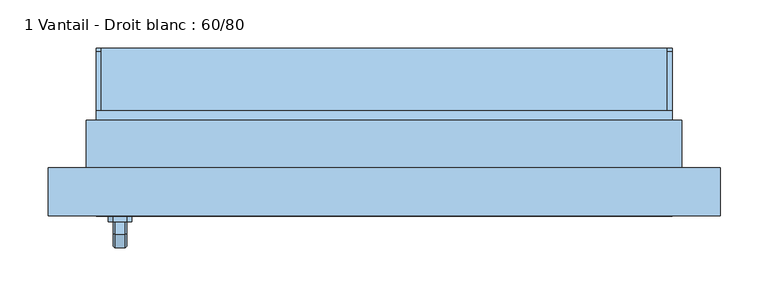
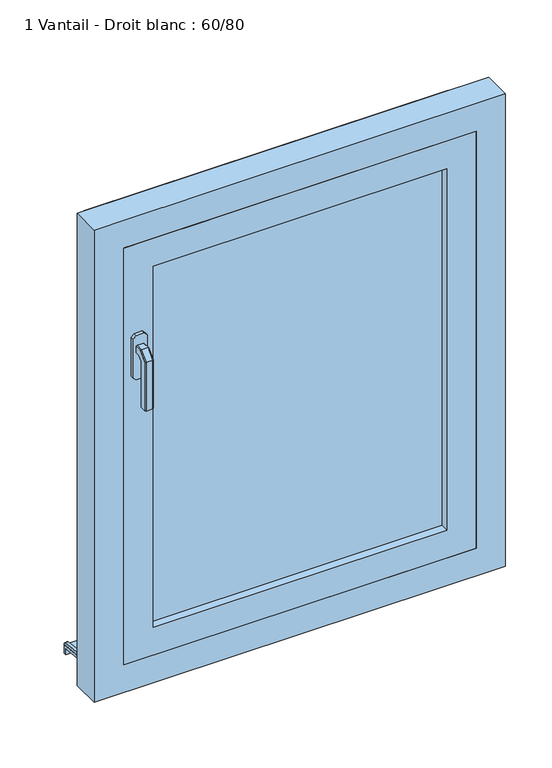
"""IFC4 building model written with IfcOpenShell, lengths in millimetres: window geometry, 1 Vantail - Droit blanc : 60/80."""

from ifc_helpers import new_model, si_unit, point, frame, frame_2d, origin, place, context, project, spatial, polyline, circle_curve, trimmed, segment, composite_curve, outline, extrude, faceted_brep, source, transform, mapped, element, save


def window_1_vantail_droit_blanc_60_80_8d276e23(model_context):
    return source(origin(), model_context, "Body", "SolidModel", [
        faceted_brep([(-269.3539903, -86.0, 1422.0339292), (-267.9660708, -86.0, 1420.6460097), (-267.9660708, -86.0, 1409.3323012), (-269.3323012, -86.0, 1407.9660708), (-280.6676988, -86.0, 1407.9660708), (-282.0339292, -86.0, 1409.3323012), (-282.0339292, -86.0, 1420.6460097), (-280.6460097, -86.0, 1422.0339292), (-269.3539903, -98.9135489, 1422.0339292), (-267.9660708, -98.3386538, 1420.6460097), (-267.9660708, -111.6460097, 1407.3386538), (-267.9660708, -111.6460097, 1320.0), (-267.9660708, -100.3323012, 1320.0), (-267.9660708, -100.3323012, 1402.6523623), (-267.9660708, -93.6523623, 1409.3323012), (-269.3323012, -93.0864511, 1407.9660708), (-280.6676988, -93.0864511, 1407.9660708), (-282.0339292, -93.6523623, 1409.3323012), (-282.0339292, -100.3323012, 1402.6523623), (-282.0339292, -100.3323012, 1320.0), (-282.0339292, -111.6460097, 1320.0), (-282.0339292, -111.6460097, 1407.3386538), (-282.0339292, -98.3386538, 1420.6460097), (-280.6460097, -98.9135489, 1422.0339292), (-269.3539903, -113.0339292, 1407.9135489), (-269.3323012, -98.9660708, 1402.0864511), (-280.6676988, -98.9660708, 1402.0864511), (-280.6460097, -113.0339292, 1407.9135489), (-269.3539903, -113.0339292, 1320.0), (-280.6460097, -113.0339292, 1320.0), (-280.6676988, -98.9660708, 1320.0), (-269.3323012, -98.9660708, 1320.0)], [[[0, 1, 2, 3, 4, 5, 6, 7]], [[1, 0, 8, 9]], [[2, 1, 9, 10, 11, 12, 13, 14]], [[3, 2, 14, 15]], [[4, 3, 15, 16]], [[5, 4, 16, 17]], [[6, 5, 17, 18, 19, 20, 21, 22]], [[7, 6, 22, 23]], [[0, 7, 23, 8]], [[9, 8, 24, 10]], [[15, 14, 13, 25]], [[16, 15, 25, 26]], [[17, 16, 26, 18]], [[23, 22, 21, 27]], [[8, 23, 27, 24]], [[28, 29, 20, 19, 30, 31, 12, 11]], [[10, 24, 28, 11]], [[25, 13, 12, 31]], [[26, 25, 31, 30]], [[18, 26, 30, 19]], [[27, 21, 20, 29]], [[24, 27, 29, 28]]]),
        extrude(outline(polyline([(1440.0, -268.0), (1440.0, -282.0), (1435.0, -287.0), (1365.0, -287.0), (1360.0, -282.0), (1360.0, -268.0), (1365.0, -263.0), (1435.0, -263.0), (1440.0, -268.0)])), frame((0.0, -86.0, 0.0), z_axis=(0.0, 1.0, 0.0), x_axis=(0.0, 0.0, 1.0)), (0.0, 0.0, 1.0), 6.0),
        extrude(outline(polyline([(95.0, 780.2703094), (95.0, 764.7145929), (90.0, 765.2401141), (90.0, 775.5406188), (0.0, 785.0), (0.0, 800.0), (5.0, 800.0), (5.0, 789.7296906), (95.0, 780.2703094)])), frame((-300.0, 0.0, 0.0), z_axis=(1.0, 0.0, 0.0), x_axis=(0.0, 1.0, 0.0)), (0.0, 0.0, 1.0), 600.0),
        extrude(outline(composite_curve([segment(polyline([(95.0, 780.2703094), (5.0, 789.7296906), (5.0, 794.757232), (91.4181139, 785.6743222)]), True, "CONTINUOUS"), segment(trimmed(circle_curve(frame_2d((91.0, 781.6962346)), 4.0), [point((91.4181139, 785.6743222))], [point((95.0, 781.6962346))], False, "CARTESIAN"), True, "CONTINUOUS"), segment(polyline([(95.0, 781.6962346), (95.0, 780.2703094)]), True, "CONTINUOUS")], self_intersect=False)), frame((-300.0, 0.0, 0.0), z_axis=(1.0, 0.0, 0.0), x_axis=(0.0, 1.0, 0.0)), (0.0, 0.0, 1.0), 5.0),
        extrude(outline(composite_curve([segment(polyline([(95.0, 780.2703094), (5.0, 789.7296906), (5.0, 794.757232), (91.4181139, 785.6743222)]), True, "CONTINUOUS"), segment(trimmed(circle_curve(frame_2d((91.0, 781.6962346)), 4.0), [point((91.4181139, 785.6743222))], [point((95.0, 781.6962346))], False, "CARTESIAN"), True, "CONTINUOUS"), segment(polyline([(95.0, 781.6962346), (95.0, 780.2703094)]), True, "CONTINUOUS")], self_intersect=False)), frame((295.0, 0.0, 0.0), z_axis=(1.0, 0.0, 0.0), x_axis=(0.0, 1.0, 0.0)), (0.0, 0.0, 1.0), 5.0),
        extrude(outline(polyline([(-250.0, -54.0), (250.0, -54.0), (250.0, -66.0), (-250.0, -66.0), (-250.0, -54.0)])), frame((0.0, 0.0, 900.0), z_axis=(0.0, 0.0, 1.0), x_axis=(1.0, 0.0, 0.0)), (0.0, 0.0, 1.0), 650.0),
        extrude(outline(polyline([(850.0, 300.0), (1600.0, 300.0), (1600.0, -300.0), (850.0, -300.0), (850.0, 300.0)]), holes=[polyline([(900.0, -250.0), (1550.0, -250.0), (1550.0, 250.0), (900.0, 250.0), (900.0, -250.0)])]), frame((0.0, -80.0, 0.0), z_axis=(0.0, 1.0, 0.0), x_axis=(0.0, 0.0, 1.0)), (0.0, 0.0, 1.0), 40.0),
        faceted_brep([(-350.0, -80.0, 800.0), (-350.0, -30.0, 800.0), (-300.0, -30.0, 800.0), (-300.0, 20.0, 800.0), (300.0, 20.0, 800.0), (300.0, -30.0, 800.0), (350.0, -30.0, 800.0), (350.0, -80.0, 800.0), (-350.0, -80.0, 1650.0), (-350.0, -30.0, 1650.0), (350.0, -30.0, 1650.0), (300.0, -30.0, 839.3761425), (-300.0, -30.0, 839.3761425), (-285.0, -30.0, 1585.0), (-285.0, -30.0, 865.0), (285.0, -30.0, 865.0), (285.0, -30.0, 1585.0), (-300.0, 30.0, 823.2991909), (-300.0, 30.0, 795.0), (-300.0, 20.0, 795.0), (300.0, 20.0, 795.0), (300.0, 30.0, 795.0), (300.0, 30.0, 823.2991909), (350.0, -80.0, 1650.0), (300.0, -80.0, 1600.0), (300.0, -80.0, 850.0), (-300.0, -80.0, 850.0), (-300.0, -80.0, 1600.0), (-285.0, -40.0, 1585.0), (-285.0, -40.0, 865.0), (285.0, -40.0, 865.0), (285.0, -40.0, 1585.0), (300.0, -40.0, 1600.0), (-300.0, -40.0, 1600.0), (-300.0, -40.0, 850.0), (300.0, -40.0, 850.0)], [[[0, 1, 2, 3, 4, 5, 6, 7]], [[1, 0, 8, 9]], [[1, 9, 10, 6, 5, 11, 12, 2], [13, 14, 15, 16]], [[12, 17, 18, 19, 3, 2]], [[3, 19, 20, 4]], [[4, 20, 21, 22, 11, 5]], [[6, 10, 23, 7]], [[0, 7, 23, 8], [24, 25, 26, 27]], [[13, 28, 29, 14]], [[29, 30, 15, 14]], [[31, 16, 15, 30]], [[17, 12, 11, 22]], [[32, 33, 34, 35], [28, 31, 30, 29]], [[34, 33, 27, 26]], [[26, 25, 35, 34]], [[24, 32, 35, 25]], [[18, 17, 22, 21]], [[19, 18, 21, 20]], [[13, 16, 31, 28]], [[33, 32, 24, 27]], [[10, 9, 8, 23]]]),
        extrude(outline(polyline([(800.0, -310.0), (800.0, -300.0), (1600.0, -300.0), (1600.0, 300.0), (800.0, 300.0), (800.0, 310.0), (1610.0, 310.0), (1610.0, -310.0), (800.0, -310.0)])), frame((0.0, -30.0, 0.0), z_axis=(0.0, 1.0, 0.0), x_axis=(0.0, 0.0, 1.0)), (0.0, 0.0, 1.0), 50.0),
    ])


if __name__ == "__main__":
    model = new_model("IFC4")
    model_context = context("Model", 3, world=origin())
    ifc_project = project(units=[si_unit("LENGTHUNIT", "METRE", prefix="MILLI")], contexts=[model_context])
    site = spatial("IfcSite", under=ifc_project)
    building = spatial("IfcBuilding", under=site)
    placement = place(None, origin())
    window_1_vantail_droit_blanc_60_80_shape = window_1_vantail_droit_blanc_60_80_8d276e23(model_context)
    element("IfcWindow", 1, ObjectType="1 Vantail - Droit blanc : 60/80", at=placement, inside=building, context=model_context, shape_type="MappedRepresentation", body=[
        mapped(window_1_vantail_droit_blanc_60_80_shape, transform((0.0, 0.0, 0.0), x_axis=(1.0, 0.0, 0.0), y_axis=(0.0, 1.0, 0.0), z_axis=(0.0, 0.0, 1.0))),
    ])
    save(model, "model.ifc")
